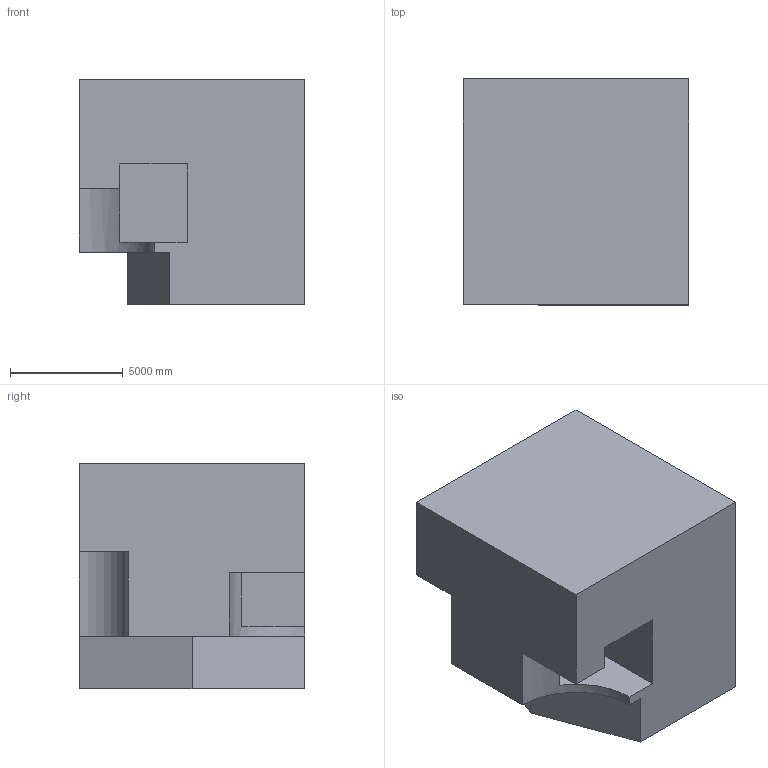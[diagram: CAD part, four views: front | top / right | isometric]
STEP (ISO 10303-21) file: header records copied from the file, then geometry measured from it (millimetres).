
FILE_DESCRIPTION (( 'STEP AP203' ), '1' );
FILE_NAME ('271.STEP', '2022-09-07T12:32:49', ( 'user' ), ( '' ), 'SwSTEP 2.0', 'SolidWorks 2021', '' );
FILE_SCHEMA (( 'CONFIG_CONTROL_DESIGN' ));
Length unit declared in the file: centimetre
Products named in the file (1): 271
Bounding box: 10000 x 10000 x 10000 mm (x, y, z)
Volume: 844662879582.7 mm3; surface area: 622605389.4 mm2
Topology: 1 solids, 1 shells, 18 faces, 48 edges, 32 vertices
Faces by surface type: plane 16, cylinder 2
Entity records: 634 total; most frequent: CARTESIAN_POINT 99, ORIENTED_EDGE 96, DIRECTION 91, EDGE_CURVE 48, LINE 43, VECTOR 43, VERTEX_POINT 32, AXIS2_PLACEMENT_3D 24
